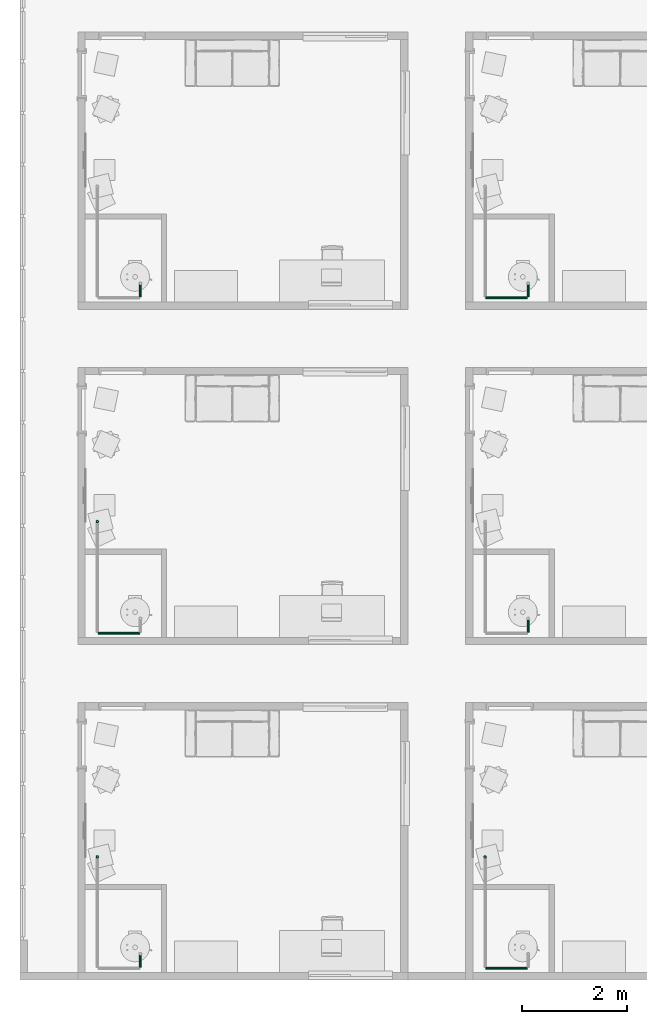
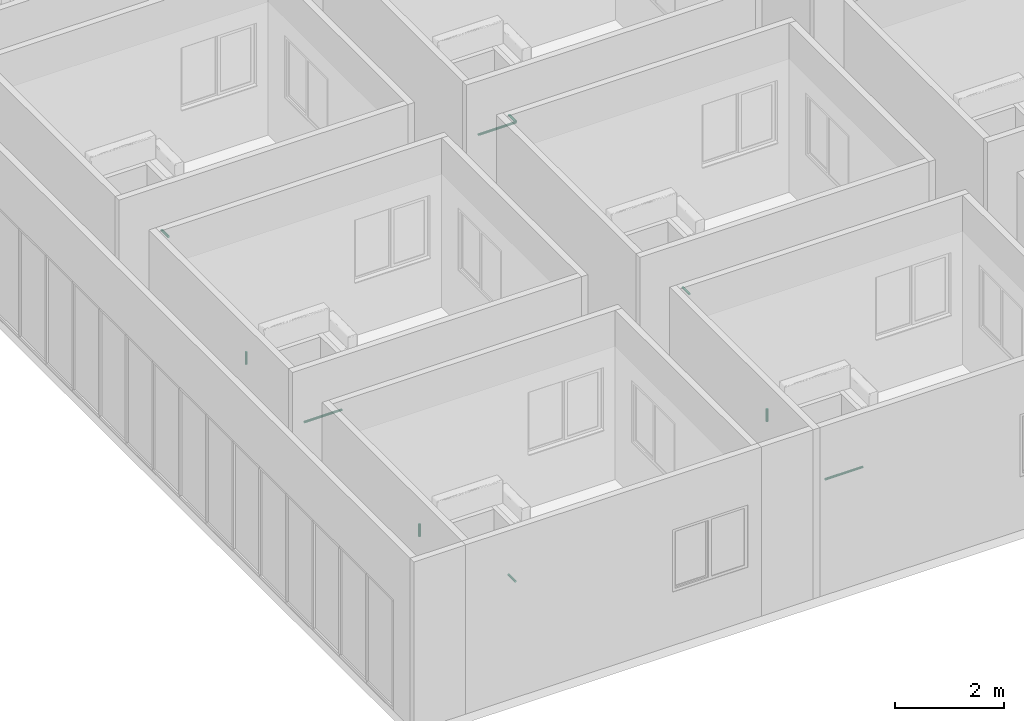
# One storey, part 43 of 72: 10 pipe segments.
"""IFC4 building model written with IfcOpenShell, lengths in centimetres."""

from ifc_helpers import new_model, entity, si_unit, converted_unit, derived_unit, direction, frame, origin, place, context, subcontext, project, spatial, arc, indexed_curve, outline, extrude, type_object, element, save


model = new_model("IFC4")

# Units and contexts
model_context = context("Model", 3, precision=0.001, world=origin(), true_north=direction((6.123233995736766e-17, 1.0)))
body_context = subcontext(model_context, "Body", "Model", "MODEL_VIEW")
ifc_project = project(units=[si_unit("LENGTHUNIT", "METRE", prefix="CENTI"), si_unit("AREAUNIT", "SQUARE_METRE"), si_unit("VOLUMEUNIT", "CUBIC_METRE"), derived_unit("THERMALTRANSMITTANCEUNIT", [(si_unit("MASSUNIT", "GRAM", prefix="KILO"), 1), (si_unit("THERMODYNAMICTEMPERATUREUNIT", "KELVIN"), -1), (si_unit("TIMEUNIT", "SECOND"), -3)]), converted_unit("PLANEANGLEUNIT", "DEGREE", entity("IfcPlaneAngleMeasure", 0.017453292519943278), si_unit("PLANEANGLEUNIT", "RADIAN"), dimensions=[0, 0, 0, 0, 0, 0, 0]), derived_unit("MASSDENSITYUNIT", [(si_unit("MASSUNIT", "GRAM", prefix="KILO"), 1), (si_unit("LENGTHUNIT", "METRE"), -3)]), derived_unit("VAPORPERMEABILITYUNIT", [(si_unit("LENGTHUNIT", "METRE"), -1), (si_unit("TIMEUNIT", "SECOND"), 1)]), derived_unit("USERDEFINED", [(si_unit("MASSUNIT", "GRAM", prefix="KILO"), 1), (si_unit("TIMEUNIT", "SECOND"), -3), (si_unit("LENGTHUNIT", "METRE"), 3), (si_unit("ELECTRICCURRENTUNIT", "AMPERE"), -2)]), derived_unit("SPECIFICHEATCAPACITYUNIT", [(si_unit("THERMODYNAMICTEMPERATUREUNIT", "KELVIN"), -1), (si_unit("LENGTHUNIT", "METRE"), 2), (si_unit("TIMEUNIT", "SECOND"), -2)]), derived_unit("THERMALCONDUCTANCEUNIT", [(si_unit("MASSUNIT", "GRAM", prefix="KILO"), 1), (si_unit("THERMODYNAMICTEMPERATUREUNIT", "KELVIN"), -1), (si_unit("TIMEUNIT", "SECOND"), -3), (si_unit("LENGTHUNIT", "METRE"), 1)]), si_unit("PRESSUREUNIT", "PASCAL"), derived_unit("MODULUSOFELASTICITYUNIT", [(si_unit("MASSUNIT", "GRAM", prefix="KILO"), 1), (si_unit("LENGTHUNIT", "METRE"), -1), (si_unit("TIMEUNIT", "SECOND"), -2)]), derived_unit("THERMALEXPANSIONCOEFFICIENTUNIT", [(si_unit("THERMODYNAMICTEMPERATUREUNIT", "KELVIN"), -1)])], contexts=[model_context])

# Site, building, storey
site_placement = place(None, origin())
site = spatial("IfcSite", under=ifc_project, at=site_placement, Name="Default", CompositionType="ELEMENT")
building_placement = place(site_placement, origin())
building = spatial("IfcBuilding", under=site, at=building_placement, Name="IDS Escape Game Building", CompositionType="ELEMENT")
storey_placement = place(building_placement, frame((0.0, 0.0, 800.0)))
storey = spatial("IfcBuildingStorey", under=building, at=storey_placement, Name="02_Second Floor", CompositionType="ELEMENT", Elevation=800.0)

# Pipe segments
pipe_segment_type = type_object("IfcPipeSegmentType", Name="Pipe Types:Piping Aluminum", PredefinedType="NOTDEFINED")
pipe_segment_1_placement = place(storey_placement, origin())
element("IfcPipeSegment", 1, at=pipe_segment_1_placement, inside=storey, type_object=pipe_segment_type, Name="Pipe Types:Piping Aluminum", ObjectType="Pipe Types:Piping Aluminum", PredefinedType="NOTDEFINED", context=body_context, shape_type="SweptSolid", body=[
    extrude(outline(indexed_curve([(2.412999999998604, 0.0), (1.7062486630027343, 1.7062486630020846), (1.3941914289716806e-12, 2.412999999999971), (-1.7062486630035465, 1.7062486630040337), (-2.4130000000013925, 0.0), (-1.70624866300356, -1.7062486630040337), (1.3806555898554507e-12, -2.412999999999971), (1.7062486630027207, -1.7062486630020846)], segments=[arc(1, 2, 3), arc(3, 4, 5), arc(5, 6, 7), arc(7, 8, 1)], self_intersect=False)), frame((112.15000000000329, 22.36482792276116, 242.0), z_axis=(0.0, 1.0, 0.0), x_axis=(-1.0, 0.0, 0.0)), (0.0, 0.0, 1.0), 25.435172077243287),
])
pipe_segment_2_placement = place(storey_placement, origin())
element("IfcPipeSegment", 2, at=pipe_segment_2_placement, inside=storey, type_object=pipe_segment_type, Name="Pipe Types:Piping Aluminum", ObjectType="Pipe Types:Piping Aluminum", PredefinedType="NOTDEFINED", context=body_context, shape_type="SweptSolid", body=[
    extrude(outline(indexed_curve([(2.4130000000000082, -2.7071678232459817e-14), (1.706248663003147, 1.7062486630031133), (-3.383959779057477e-15, 2.412999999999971), (-1.7062486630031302, 1.7062486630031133), (-2.412999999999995, 0.0), (-1.7062486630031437, -1.7062486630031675), (-6.767919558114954e-15, -2.413000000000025), (1.7062486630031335, -1.7062486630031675)], segments=[arc(1, 2, 3), arc(3, 4, 5), arc(5, 6, 7), arc(7, 8, 1)], self_intersect=False)), frame((30.046716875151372, 233.26482792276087, 244.09999999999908), z_axis=(0.0, 0.0, 1.0), x_axis=(-1.0, 0.0, 0.0)), (0.0, 0.0, 1.0), 27.90000000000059),
])
pipe_segment_3_placement = place(storey_placement, origin())
element("IfcPipeSegment", 3, at=pipe_segment_3_placement, inside=storey, type_object=pipe_segment_type, Name="Pipe Types:Piping Aluminum", ObjectType="Pipe Types:Piping Aluminum", PredefinedType="NOTDEFINED", context=body_context, shape_type="SweptSolid", body=[
    extrude(outline(indexed_curve([(2.412999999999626, -2.165734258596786e-13), (1.7062486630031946, 1.7062486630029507), (3.790034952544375e-13, 2.4130000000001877), (-1.7062486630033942, 1.706248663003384), (-2.4130000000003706, -2.165734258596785e-13), (-1.70624866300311, -1.706248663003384), (3.654676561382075e-13, -2.4129999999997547), (1.7062486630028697, -1.7062486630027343)], segments=[arc(1, 2, 3), arc(3, 4, 5), arc(5, 6, 7), arc(7, 8, 1)], self_intersect=False)), frame((769.1467168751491, 21.264827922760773, 242.0), z_axis=(1.0, 0.0, 0.0), x_axis=(0.0, 1.0, 0.0)), (0.0, 0.0, 1.0), 79.90328312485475),
])
pipe_segment_4_placement = place(storey_placement, origin())
element("IfcPipeSegment", 4, at=pipe_segment_4_placement, inside=storey, type_object=pipe_segment_type, Name="Pipe Types:Piping Aluminum", ObjectType="Pipe Types:Piping Aluminum", PredefinedType="NOTDEFINED", context=body_context, shape_type="SweptSolid", body=[
    extrude(outline(indexed_curve([(2.412999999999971, -2.7071678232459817e-14), (1.7062486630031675, 1.7062486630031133), (0.0, 2.412999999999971), (-1.7062486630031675, 1.7062486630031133), (-2.412999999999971, 0.0), (-1.7062486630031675, -1.7062486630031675), (0.0, -2.413000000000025), (1.7062486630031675, -1.7062486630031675)], segments=[arc(1, 2, 3), arc(3, 4, 5), arc(5, 6, 7), arc(7, 8, 1)], self_intersect=False)), frame((768.0467168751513, 233.26482792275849, 244.09999999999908), z_axis=(0.0, 0.0, 1.0), x_axis=(-1.0, 0.0, 0.0)), (0.0, 0.0, 1.0), 27.90000000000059),
])
pipe_segment_5_placement = place(storey_placement, origin())
element("IfcPipeSegment", 5, at=pipe_segment_5_placement, inside=storey, type_object=pipe_segment_type, Name="Pipe Types:Piping Aluminum", ObjectType="Pipe Types:Piping Aluminum", PredefinedType="NOTDEFINED", context=body_context, shape_type="SweptSolid", body=[
    extrude(outline(indexed_curve([(2.4129999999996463, -2.165734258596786e-13), (1.7062486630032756, 1.7062486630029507), (4.331468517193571e-13, 2.4130000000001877), (-1.706248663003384, 1.706248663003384), (-2.413000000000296, -2.165734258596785e-13), (-1.706248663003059, -1.706248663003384), (4.3314685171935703e-13, -2.4129999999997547), (1.7062486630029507, -1.7062486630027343)], segments=[arc(1, 2, 3), arc(3, 4, 5), arc(5, 6, 7), arc(7, 8, 1)], self_intersect=False)), frame((31.14671687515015, 659.2648279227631, 242.0), z_axis=(1.0, 0.0, 0.0), x_axis=(0.0, 1.0, 0.0)), (0.0, 0.0, 1.0), 79.9032831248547),
])
pipe_segment_6_placement = place(storey_placement, origin())
element("IfcPipeSegment", 6, at=pipe_segment_6_placement, inside=storey, type_object=pipe_segment_type, Name="Pipe Types:Piping Aluminum", ObjectType="Pipe Types:Piping Aluminum", PredefinedType="NOTDEFINED", context=body_context, shape_type="SweptSolid", body=[
    extrude(outline(indexed_curve([(2.4130000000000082, 0.0), (1.706248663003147, 1.7062486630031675), (-3.383959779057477e-15, 2.412999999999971), (-1.7062486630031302, 1.7062486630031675), (-2.412999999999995, 0.0), (-1.7062486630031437, -1.7062486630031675), (-6.767919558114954e-15, -2.412999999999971), (1.7062486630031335, -1.7062486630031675)], segments=[arc(1, 2, 3), arc(3, 4, 5), arc(5, 6, 7), arc(7, 8, 1)], self_intersect=False)), frame((30.0467168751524, 871.2648279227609, 244.09999999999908), z_axis=(0.0, 0.0, 1.0), x_axis=(-1.0, 0.0, 0.0)), (0.0, 0.0, 1.0), 27.90000000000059),
])
pipe_segment_7_placement = place(storey_placement, origin())
element("IfcPipeSegment", 7, at=pipe_segment_7_placement, inside=storey, type_object=pipe_segment_type, Name="Pipe Types:Piping Aluminum", ObjectType="Pipe Types:Piping Aluminum", PredefinedType="NOTDEFINED", context=body_context, shape_type="SweptSolid", body=[
    extrude(outline(indexed_curve([(2.4129999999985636, 0.0), (1.7062486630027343, 1.7062486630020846), (1.4077272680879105e-12, 2.412999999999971), (-1.7062486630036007, 1.7062486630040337), (-2.4130000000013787, 0.0), (-1.7062486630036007, -1.7062486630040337), (1.4077272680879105e-12, -2.412999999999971), (1.7062486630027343, -1.7062486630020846)], segments=[arc(1, 2, 3), arc(3, 4, 5), arc(5, 6, 7), arc(7, 8, 1)], self_intersect=False)), frame((850.1500000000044, 660.3648279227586, 242.0), z_axis=(0.0, 1.0, 0.0), x_axis=(-1.0, 0.0, 0.0)), (0.0, 0.0, 1.0), 25.43517207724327),
])
pipe_segment_8_placement = place(storey_placement, origin())
element("IfcPipeSegment", 8, at=pipe_segment_8_placement, inside=storey, type_object=pipe_segment_type, Name="Pipe Types:Piping Aluminum", ObjectType="Pipe Types:Piping Aluminum", PredefinedType="NOTDEFINED", context=body_context, shape_type="SweptSolid", body=[
    extrude(outline(indexed_curve([(2.412999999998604, 0.0), (1.7062486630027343, 1.7062486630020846), (1.3941914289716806e-12, 2.412999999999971), (-1.7062486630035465, 1.7062486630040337), (-2.4130000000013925, 0.0), (-1.70624866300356, -1.7062486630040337), (1.3806555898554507e-12, -2.412999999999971), (1.7062486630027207, -1.7062486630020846)], segments=[arc(1, 2, 3), arc(3, 4, 5), arc(5, 6, 7), arc(7, 8, 1)], self_intersect=False)), frame((112.15000000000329, 1298.3648279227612, 242.0), z_axis=(0.0, 1.0, 0.0), x_axis=(-1.0, 0.0, 0.0)), (0.0, 0.0, 1.0), 25.43517207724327),
])
pipe_segment_9_placement = place(storey_placement, origin())
element("IfcPipeSegment", 9, at=pipe_segment_9_placement, inside=storey, type_object=pipe_segment_type, Name="Pipe Types:Piping Aluminum", ObjectType="Pipe Types:Piping Aluminum", PredefinedType="NOTDEFINED", context=body_context, shape_type="SweptSolid", body=[
    extrude(outline(indexed_curve([(2.412999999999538, -2.165734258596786e-13), (1.7062486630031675, 1.7062486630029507), (4.331468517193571e-13, 2.4130000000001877), (-1.706248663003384, 1.7062486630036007), (-2.4130000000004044, -2.165734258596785e-13), (-1.7062486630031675, -1.706248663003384), (4.3314685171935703e-13, -2.4129999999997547), (1.7062486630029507, -1.7062486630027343)], segments=[arc(1, 2, 3), arc(3, 4, 5), arc(5, 6, 7), arc(7, 8, 1)], self_intersect=False)), frame((769.1467168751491, 1297.264827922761, 242.0), z_axis=(1.0, 0.0, 0.0), x_axis=(0.0, 1.0, 0.0)), (0.0, 0.0, 1.0), 79.90328312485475),
])
pipe_segment_10_placement = place(storey_placement, origin())
element("IfcPipeSegment", 10, at=pipe_segment_10_placement, inside=storey, type_object=pipe_segment_type, Name="Pipe Types:Piping Aluminum", ObjectType="Pipe Types:Piping Aluminum", PredefinedType="NOTDEFINED", context=body_context, shape_type="SweptSolid", body=[
    extrude(outline(indexed_curve([(2.4129999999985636, 0.0), (1.7062486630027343, 1.7062486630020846), (1.4077272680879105e-12, 2.412999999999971), (-1.7062486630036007, 1.7062486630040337), (-2.4130000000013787, 0.0), (-1.7062486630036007, -1.7062486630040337), (1.4077272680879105e-12, -2.412999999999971), (1.7062486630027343, -1.7062486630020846)], segments=[arc(1, 2, 3), arc(3, 4, 5), arc(5, 6, 7), arc(7, 8, 1)], self_intersect=False)), frame((850.1500000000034, 1298.3648279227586, 242.0), z_axis=(0.0, 1.0, 0.0), x_axis=(-1.0, 0.0, 0.0)), (0.0, 0.0, 1.0), 25.435172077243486),
])

save(model, "model.ifc")
